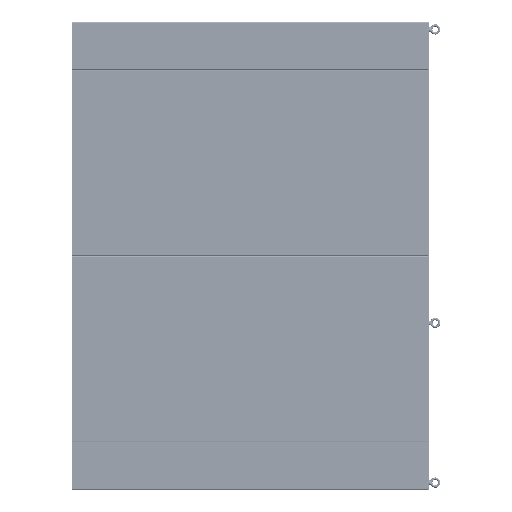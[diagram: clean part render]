
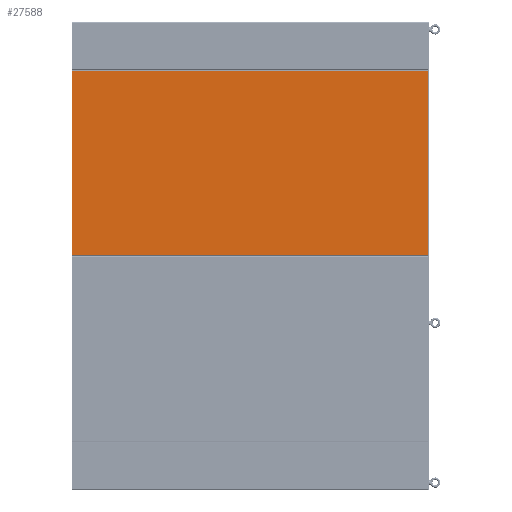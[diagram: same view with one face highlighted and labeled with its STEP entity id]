
A CAD part, left-side view. The second image highlights one B-rep face of the part: STEP entity #27588.
In plain terms, the highlighted planar face has unit normal (-1, 0, 0) as drawn and (0, 0, -1) by its records, which use the part's own axes.
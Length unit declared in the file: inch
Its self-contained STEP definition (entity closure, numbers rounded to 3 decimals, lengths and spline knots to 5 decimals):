
#27124=DIRECTION('',(0.,-1.,0.));
#27125=VECTOR('',#27124,89.75);
#27126=CARTESIAN_POINT('',(-23.25,0.,-0.125));
#27127=LINE('',#27126,#27125);
#27139=DIRECTION('',(1.,0.,0.));
#27140=VECTOR('',#27139,46.5);
#27141=CARTESIAN_POINT('',(-23.25,-89.75,-0.125));
#27142=LINE('',#27141,#27140);
#27146=DIRECTION('',(-1.,0.,0.));
#27147=VECTOR('',#27146,46.5);
#27148=CARTESIAN_POINT('',(23.25,0.,-0.125));
#27149=LINE('',#27148,#27147);
#27182=DIRECTION('',(0.,1.,0.));
#27183=VECTOR('',#27182,89.75);
#27184=CARTESIAN_POINT('',(23.25,-89.75,-0.125));
#27185=LINE('',#27184,#27183);
#27389=CARTESIAN_POINT('',(23.25,0.,-0.125));
#27390=VERTEX_POINT('',#27389);
#27391=CARTESIAN_POINT('',(23.25,-89.75,-0.125));
#27392=VERTEX_POINT('',#27391);
#27405=CARTESIAN_POINT('',(-23.25,-89.75,-0.125));
#27406=VERTEX_POINT('',#27405);
#27407=CARTESIAN_POINT('',(-23.25,0.,-0.125));
#27408=VERTEX_POINT('',#27407);
#27574=CARTESIAN_POINT('',(0.,0.,-0.125));
#27575=DIRECTION('',(0.,0.,1.));
#27576=DIRECTION('',(1.,0.,0.));
#27577=AXIS2_PLACEMENT_3D('',#27574,#27575,#27576);
#27578=PLANE('',#27577);
#27579=ORIENTED_EDGE('',*,*,#27567,.T.);
#27581=ORIENTED_EDGE('',*,*,#27580,.T.);
#27583=ORIENTED_EDGE('',*,*,#27582,.T.);
#27585=ORIENTED_EDGE('',*,*,#27584,.T.);
#27586=EDGE_LOOP('',(#27579,#27581,#27583,#27585));
#27587=FACE_OUTER_BOUND('',#27586,.F.);
#27567=EDGE_CURVE('',#27408,#27406,#27127,.T.);
#27580=EDGE_CURVE('',#27406,#27392,#27142,.T.);
#27582=EDGE_CURVE('',#27392,#27390,#27185,.T.);
#27584=EDGE_CURVE('',#27390,#27408,#27149,.T.);
#27588=ADVANCED_FACE('',(#27587),#27578,.F.);
